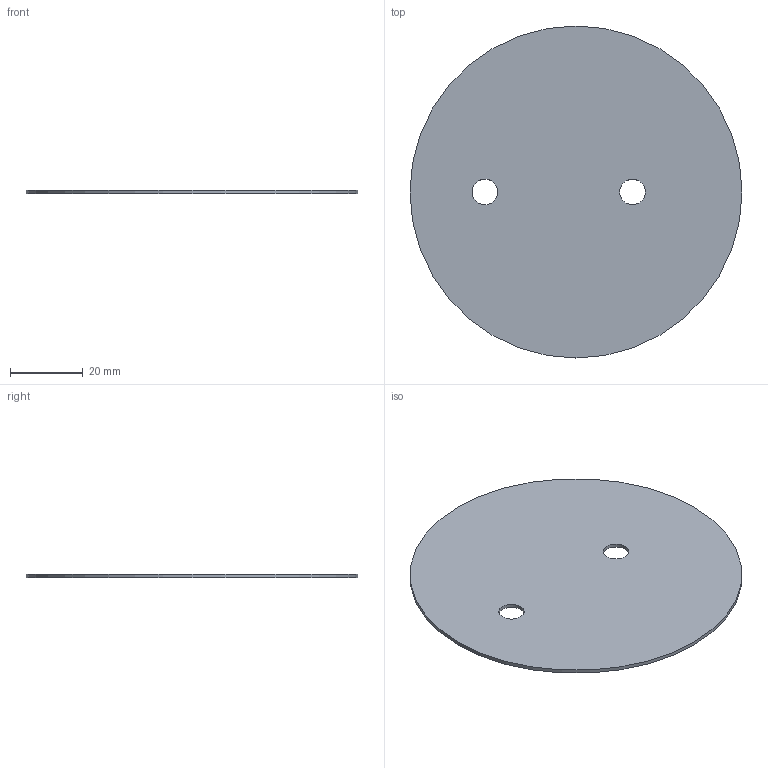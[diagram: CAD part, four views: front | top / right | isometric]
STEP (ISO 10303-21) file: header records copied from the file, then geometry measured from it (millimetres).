
FILE_DESCRIPTION(('Open CASCADE Model'),'2;1');
FILE_NAME('Open CASCADE Shape Model','2026-10-21T10:33:18',('Author'),( 'Open CASCADE'),'Open CASCADE STEP processor 7.9','Open CASCADE 7.9' ,'Unknown');
FILE_SCHEMA(('AUTOMOTIVE_DESIGN { 1 0 10303 214 1 1 1 1 }'));
Length unit declared in the file: millimetre
Products named in the file (1): Open CASCADE STEP translator 7.9 20
Bounding box: 91 x 91 x 1 mm (x, y, z)
Volume: 6426.9 mm3; surface area: 13183.7 mm2
Topology: 1 solids, 1 shells, 5 faces, 9 edges, 6 vertices
Faces by surface type: cylinder 3, plane 2
Full cylindrical faces by diameter (mm): 7 x2, 91 x1
Entity records: 276 total; most frequent: CARTESIAN_POINT 63, DIRECTION 41, ORIENTED_EDGE 18, PCURVE 18, DEFINITIONAL_REPRESENTATION 18, LINE 15, VECTOR 15, AXIS2_PLACEMENT_3D 12
